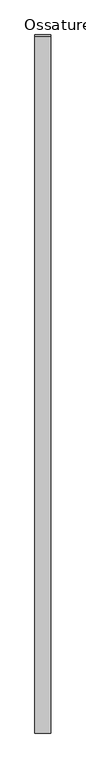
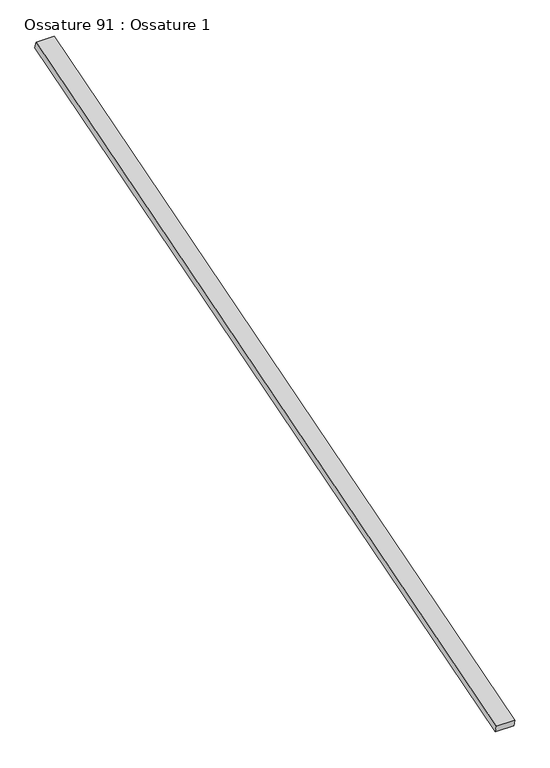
"""IFC4 building model written with IfcOpenShell, lengths in millimetres: beam geometry, Ossature 91 : Ossature 1."""

from ifc_helpers import new_model, si_unit, frame, origin, place, context, project, spatial, polyline, outline, extrude, source, transform, mapped, element, save


def ossature_91_ossature_1_68ee5557(model_context):
    return source(origin(), model_context, "Body", "SweptSolid", [
        extrude(outline(polyline([(0.0, 0.0), (0.0, -4543.0299679), (-100.0, -4543.0299679), (-100.0, 0.0), (0.0, 0.0)])), frame((21955.4466393, -833.3913565, 8153.6336115), z_axis=(0.0, -0.28734788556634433, 0.9578262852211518), x_axis=(-1.0, 0.0, 0.0)), (0.0, 0.0, 1.0), 40.0),
    ])


if __name__ == "__main__":
    model = new_model("IFC4")
    model_context = context("Model", 3, world=origin())
    ifc_project = project(units=[si_unit("LENGTHUNIT", "METRE", prefix="MILLI")], contexts=[model_context])
    site = spatial("IfcSite", under=ifc_project)
    building = spatial("IfcBuilding", under=site)
    placement = place(None, origin())
    ossature_91_ossature_1_shape = ossature_91_ossature_1_68ee5557(model_context)
    element("IfcBeam", 1, ObjectType="Ossature 91 : Ossature 1", at=placement, inside=building, context=model_context, shape_type="MappedRepresentation", body=[
        mapped(ossature_91_ossature_1_shape, transform((0.0, 0.0, 0.0), x_axis=(1.0, 0.0, 0.0), y_axis=(0.0, 1.0, 0.0), z_axis=(0.0, 0.0, 1.0))),
    ])
    save(model, "model.ifc")
